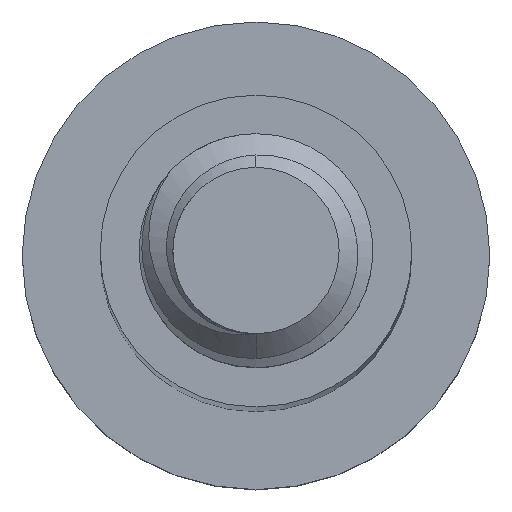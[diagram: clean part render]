
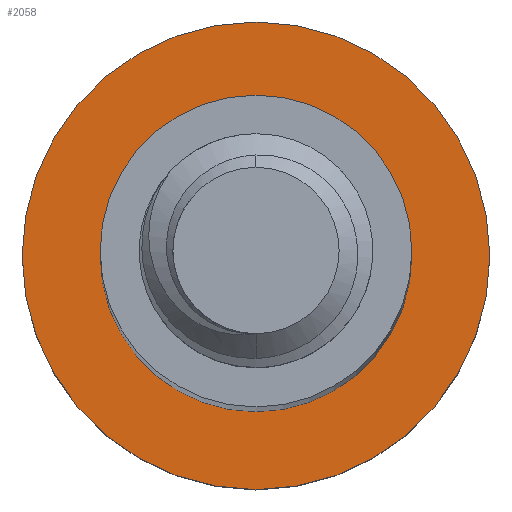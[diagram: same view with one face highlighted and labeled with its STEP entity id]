
A CAD part, top view. The second image highlights one B-rep face of the part: STEP entity #2058.
In plain terms, the highlighted planar face has unit normal (0, 0, 1).
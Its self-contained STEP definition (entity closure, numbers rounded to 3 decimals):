
#30 = DIRECTION ( 'NONE',  ( -1., 0., 0. ) ) ;
#41 = EDGE_CURVE ( 'NONE', #1829, #793, #597, .T. ) ;
#169 = EDGE_LOOP ( 'NONE', ( #1092, #783 ) ) ;
#176 = EDGE_LOOP ( 'NONE', ( #1795, #2002 ) ) ;
#203 = VERTEX_POINT ( 'NONE', #1286 ) ;
#214 = DIRECTION ( 'NONE',  ( -1., 0., 0. ) ) ;
#336 = DIRECTION ( 'NONE',  ( 0., 0., -1. ) ) ;
#381 = CIRCLE ( 'NONE', #1329, 3. ) ;
#399 = FACE_OUTER_BOUND ( 'NONE', #169, .T. ) ;
#417 = AXIS2_PLACEMENT_3D ( 'NONE', #1770, #737, #30 ) ;
#561 = AXIS2_PLACEMENT_3D ( 'NONE', #1887, #336, #1033 ) ;
#597 = CIRCLE ( 'NONE', #561, 2. ) ;
#640 = CIRCLE ( 'NONE', #1114, 2. ) ;
#653 = DIRECTION ( 'NONE',  ( -1., 0., 0. ) ) ;
#717 = PLANE ( 'NONE',  #417 ) ;
#737 = DIRECTION ( 'NONE',  ( 0., 0., -1. ) ) ;
#783 = ORIENTED_EDGE ( 'NONE', *, *, #1272, .F. ) ;
#793 = VERTEX_POINT ( 'NONE', #2103 ) ;
#825 = DIRECTION ( 'NONE',  ( 0., 0., -1. ) ) ;
#837 = CARTESIAN_POINT ( 'NONE',  ( 3., 0., -35. ) ) ;
#847 = CARTESIAN_POINT ( 'NONE',  ( 0., 0., -35. ) ) ;
#881 = FACE_BOUND ( 'NONE', #176, .T. ) ;
#979 = CARTESIAN_POINT ( 'NONE',  ( 0., 0., -35. ) ) ;
#1033 = DIRECTION ( 'NONE',  ( -1., 0., 0. ) ) ;
#1034 = CIRCLE ( 'NONE', #1295, 3. ) ;
#1083 = CARTESIAN_POINT ( 'NONE',  ( 0., 0., -35. ) ) ;
#1092 = ORIENTED_EDGE ( 'NONE', *, *, #2092, .F. ) ;
#1114 = AXIS2_PLACEMENT_3D ( 'NONE', #847, #2067, #1546 ) ;
#1272 = EDGE_CURVE ( 'NONE', #203, #1738, #381, .T. ) ;
#1286 = CARTESIAN_POINT ( 'NONE',  ( -3., 0., -35. ) ) ;
#1295 = AXIS2_PLACEMENT_3D ( 'NONE', #1083, #1910, #214 ) ;
#1329 = AXIS2_PLACEMENT_3D ( 'NONE', #979, #825, #653 ) ;
#1546 = DIRECTION ( 'NONE',  ( -1., 0., 0. ) ) ;
#1738 = VERTEX_POINT ( 'NONE', #837 ) ;
#1770 = CARTESIAN_POINT ( 'NONE',  ( 0., 0., -35. ) ) ;
#1795 = ORIENTED_EDGE ( 'NONE', *, *, #1954, .T. ) ;
#1829 = VERTEX_POINT ( 'NONE', #1846 ) ;
#1846 = CARTESIAN_POINT ( 'NONE',  ( 2., 0., -35. ) ) ;
#1887 = CARTESIAN_POINT ( 'NONE',  ( 0., 0., -35. ) ) ;
#1910 = DIRECTION ( 'NONE',  ( 0., 0., -1. ) ) ;
#1954 = EDGE_CURVE ( 'NONE', #793, #1829, #640, .T. ) ;
#2002 = ORIENTED_EDGE ( 'NONE', *, *, #41, .T. ) ;
#2058 = ADVANCED_FACE ( 'NONE', ( #881, #399 ), #717, .F. ) ;
#2067 = DIRECTION ( 'NONE',  ( 0., 0., -1. ) ) ;
#2092 = EDGE_CURVE ( 'NONE', #1738, #203, #1034, .T. ) ;
#2103 = CARTESIAN_POINT ( 'NONE',  ( -2., 0., -35. ) ) ;
